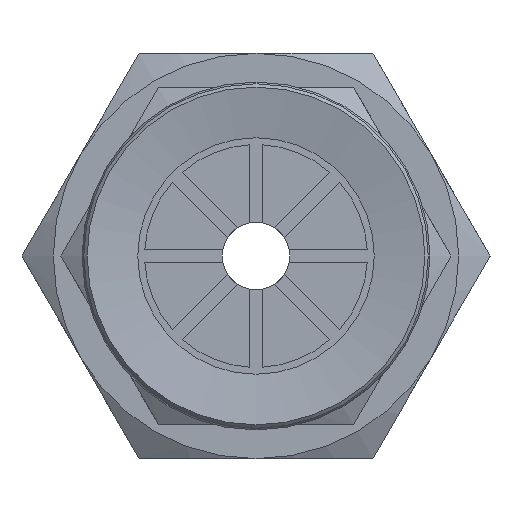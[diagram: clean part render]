
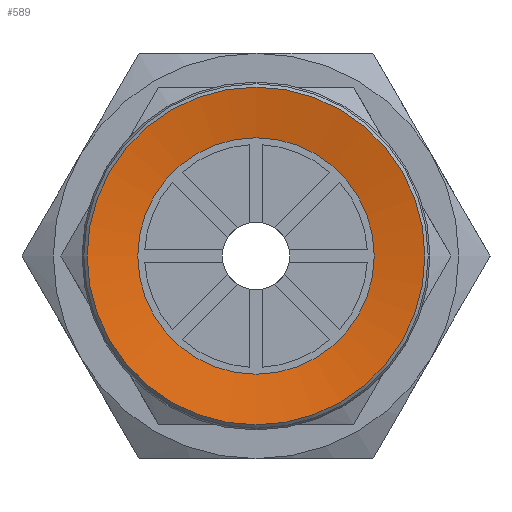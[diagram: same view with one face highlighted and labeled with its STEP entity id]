
A CAD part, front view. The second image highlights one B-rep face of the part: STEP entity #589.
In plain terms, the highlighted conical face has half-angle 80 degrees and reference radius 5 mm.
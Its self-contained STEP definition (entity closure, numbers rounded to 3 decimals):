
#589=ADVANCED_FACE('',(#925,#926),#927,.F.);
#925=FACE_BOUND('',#1274,.T.);
#926=FACE_OUTER_BOUND('',#1275,.T.);
#927=CONICAL_SURFACE('',#1276,5.0,1.396);
#1274=EDGE_LOOP('',(#2189));
#1275=EDGE_LOOP('',(#2190));
#1276=AXIS2_PLACEMENT_3D('',#2191,#2192,#2193);
#2189=ORIENTED_EDGE('',*,*,#2438,.T.);
#2190=ORIENTED_EDGE('',*,*,#2475,.F.);
#2191=CARTESIAN_POINT('',(0.0,0.,0.));
#2192=DIRECTION('',(0.0,0.,-1.0));
#2193=DIRECTION('',(0.0,1.0,0.));
#2438=EDGE_CURVE('',#2835,#2835,#2836,.T.);
#2475=EDGE_CURVE('',#2905,#2905,#2906,.T.);
#2835=VERTEX_POINT('',#3641);
#2836=CIRCLE('',#3642,3.5);
#2905=VERTEX_POINT('',#3728);
#2906=CIRCLE('',#3729,5.0);
#3641=CARTESIAN_POINT('',(0.0,-3.5,0.264));
#3642=AXIS2_PLACEMENT_3D('',#4125,#4126,#4127);
#3728=CARTESIAN_POINT('',(0.0,-5.0,0.));
#3729=AXIS2_PLACEMENT_3D('',#4202,#4203,#4204);
#4125=CARTESIAN_POINT('',(0.0,0.,0.264));
#4126=DIRECTION('',(0.0,0.,1.0));
#4127=DIRECTION('',(0.0,-1.0,0.));
#4202=CARTESIAN_POINT('',(0.0,0.,0.));
#4203=DIRECTION('',(0.0,0.,1.0));
#4204=DIRECTION('',(0.0,-1.0,0.));
